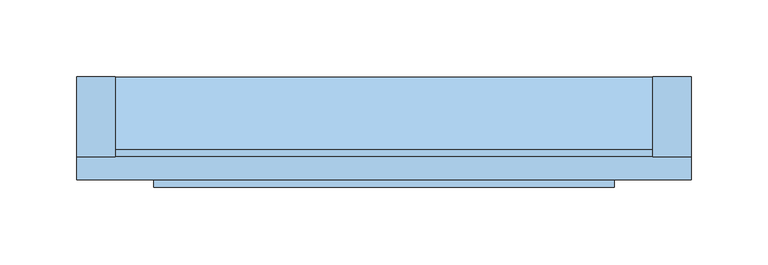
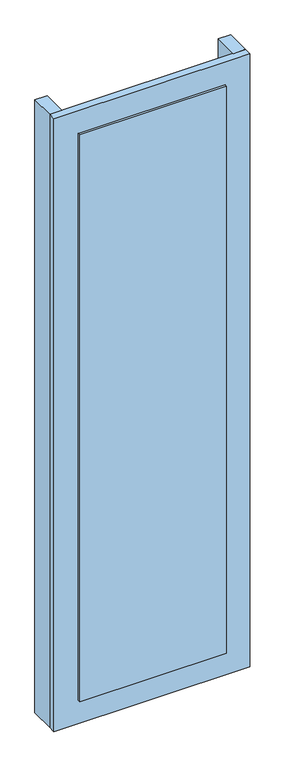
"""IFC4 building model written with IfcOpenShell, lengths in millimetres: window geometry, Fenêtre Fixe rectangle Alu Mur bois sans feuillure : 35*130."""

from ifc_helpers import new_model, si_unit, frame, origin, origin_with_axes, place, context, project, spatial, polyline, outline, extrude, source, transform, mapped, element, save


def window_4e7888ec(model_context):
    return source(origin(), model_context, "Body", "SweptSolid", [
        extrude(outline(polyline([(-175.0, -58.015369), (-175.0, -110.0), (-200.0, -110.0), (-200.0, -58.015369), (-175.0, -58.015369)])), origin_with_axes(), (0.0, 0.0, 1.0), 1325.0),
        extrude(outline(polyline([(175.0, -58.015369), (200.0, -58.015369), (200.0, -110.0), (175.0, -110.0), (175.0, -58.015369)])), origin_with_axes(), (0.0, 0.0, 1.0), 1325.0),
        extrude(outline(polyline([(150.0, -130.0), (-150.0, -130.0), (-150.0, -115.0), (150.0, -115.0), (150.0, -130.0)])), frame((0.0, 0.0, 50.0), z_axis=(0.0, 0.0, 1.0), x_axis=(1.0, 0.0, 0.0)), (0.0, 0.0, 1.0), 1225.0),
        extrude(outline(polyline([(-105.0, 40.0), (-58.015369, 22.8989928), (-58.015369, 2.8989928), (-110.0, 2.8989928), (-110.0, 40.0), (-105.0, 40.0)])), frame((-175.0, 0.0, 0.0), z_axis=(1.0, 0.0, 0.0), x_axis=(0.0, 1.0, 0.0)), (0.0, 0.0, 1.0), 350.0),
        extrude(outline(polyline([(1325.0, 200.0), (1325.0, -200.0), (0.0, -200.0), (0.0, 200.0), (1325.0, 200.0)]), holes=[polyline([(1275.0, 150.0), (50.0, 150.0), (50.0, -150.0), (1275.0, -150.0), (1275.0, 150.0)])]), frame((0.0, -125.0, 0.0), z_axis=(0.0, 1.0, 0.0), x_axis=(0.0, 0.0, 1.0)), (0.0, 0.0, 1.0), 15.0),
    ])


if __name__ == "__main__":
    model = new_model("IFC4")
    model_context = context("Model", 3, world=origin())
    ifc_project = project(units=[si_unit("LENGTHUNIT", "METRE", prefix="MILLI")], contexts=[model_context])
    site = spatial("IfcSite", under=ifc_project)
    building = spatial("IfcBuilding", under=site)
    placement = place(None, origin())
    window_shape = window_4e7888ec(model_context)
    element("IfcWindow", 1, ObjectType="Fenêtre Fixe rectangle Alu Mur bois sans feuillure : 35*130", at=placement, inside=building, context=model_context, shape_type="MappedRepresentation", body=[
        mapped(window_shape, transform((0.0, 0.0, 0.0), x_axis=(1.0, 0.0, 0.0), y_axis=(0.0, 1.0, 0.0), z_axis=(0.0, 0.0, 1.0))),
    ])
    save(model, "model.ifc")
